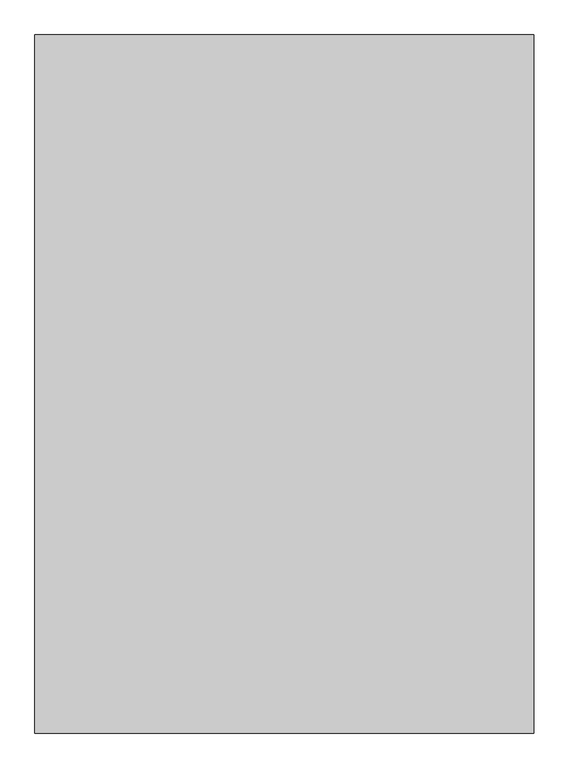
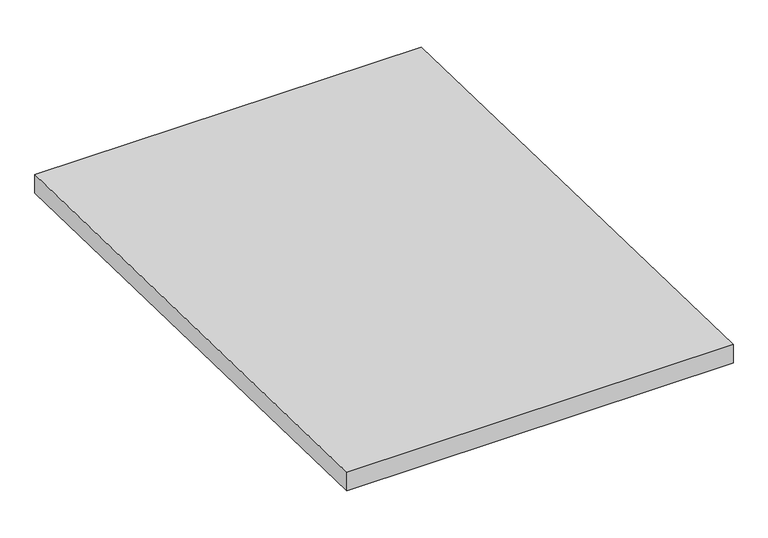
"""IFC4 building model written with IfcOpenShell, lengths in millimetres: ramp geometry, 8.33%."""

from ifc_helpers import new_model, si_unit, frame, origin, place, context, project, spatial, polyline, outline, extrude, source, transform, mapped, element, save


def ramp_bc2fdf4a(model_context):
    return source(origin(), model_context, "Body", "SweptSolid", [
        extrude(outline(polyline([(2831.30277, 400.0), (7031.30277, 300.0), (7031.30277, 149.957489), (2831.30277, 249.957489), (2831.30277, 400.0)])), frame((1726.6806519, 0.0, 0.0), z_axis=(1.0, 0.0, 0.0), x_axis=(0.0, 1.0, 0.0)), (0.0, 0.0, 1.0), 3000.0),
    ])


if __name__ == "__main__":
    model = new_model("IFC4")
    model_context = context("Model", 3, world=origin())
    ifc_project = project(units=[si_unit("LENGTHUNIT", "METRE", prefix="MILLI")], contexts=[model_context])
    site = spatial("IfcSite", under=ifc_project)
    building = spatial("IfcBuilding", under=site)
    placement = place(None, origin())
    ramp_shape = ramp_bc2fdf4a(model_context)
    element("IfcRamp", 1, ObjectType="8.33%", at=placement, inside=building, context=model_context, shape_type="MappedRepresentation", body=[
        mapped(ramp_shape, transform((0.0, 0.0, 0.0), x_axis=(1.0, 0.0, 0.0), y_axis=(0.0, 1.0, 0.0), z_axis=(0.0, 0.0, 1.0))),
    ])
    save(model, "model.ifc")
